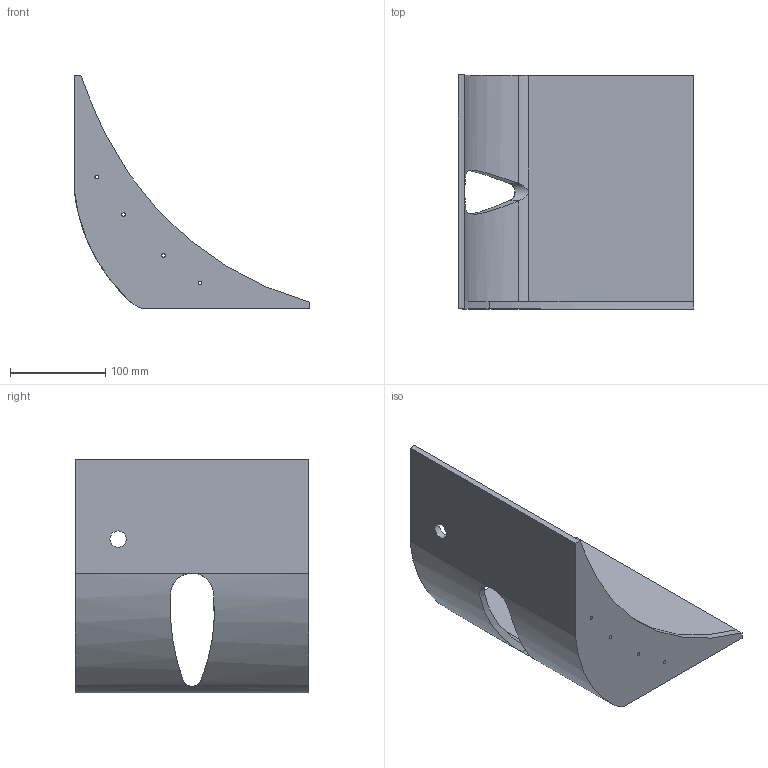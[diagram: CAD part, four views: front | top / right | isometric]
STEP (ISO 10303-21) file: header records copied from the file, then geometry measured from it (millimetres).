
FILE_DESCRIPTION(/* description */ (''),/* implementation_level */ '2;1');
FILE_NAME(/* name */ 'FrontFP1.1_MIR.stp',/* time_stamp */ '2025-10-17T11:29:35+05:00',/* author */ ('yrysz'),/* organization */ (''),/* preprocessor_version */ 'ST-DEVELOPER v20',/* originating_system */ 'Autodesk Inventor 2025',/* authorisation */ '');
FILE_SCHEMA (('AUTOMOTIVE_DESIGN { 1 0 10303 214 3 1 1 }'));
Length unit declared in the file: millimetre
Products named in the file (1): FrontFP1.1_MIR
Bounding box: 246.71 x 245 x 244.99 mm (x, y, z)
Volume: 844472 mm3; surface area: 248754.2 mm2
Topology: 1 solids, 1 shells, 27 faces, 76 edges, 49 vertices
Faces by surface type: cylinder 18, plane 9
Full cylindrical faces by diameter (mm): 3.7 x4, 17 x1
Entity records: 1079 total; most frequent: CARTESIAN_POINT 323, ORIENTED_EDGE 152, DIRECTION 139, EDGE_CURVE 76, AXIS2_PLACEMENT_3D 50, VERTEX_POINT 49, LINE 39, VECTOR 39
